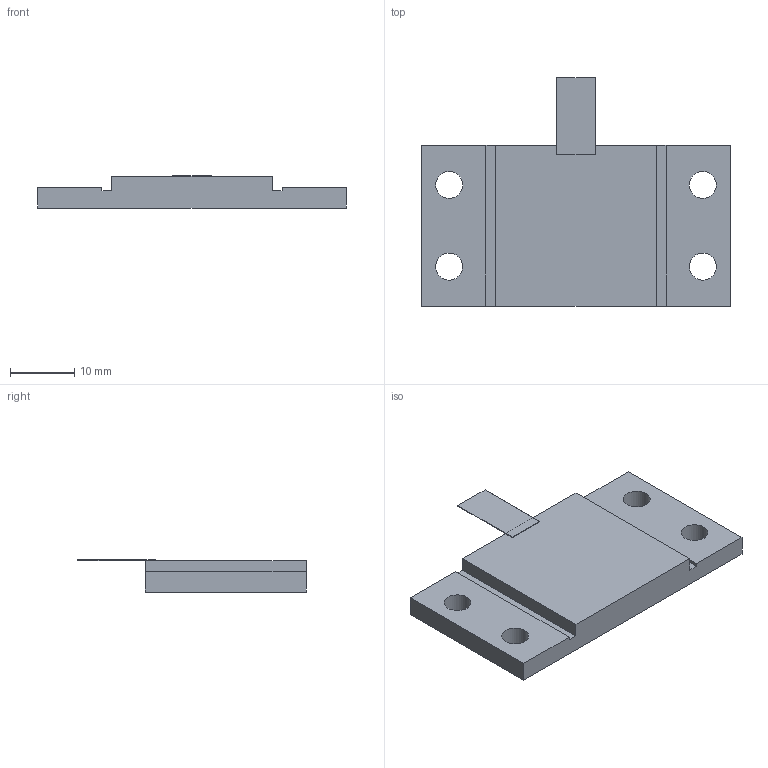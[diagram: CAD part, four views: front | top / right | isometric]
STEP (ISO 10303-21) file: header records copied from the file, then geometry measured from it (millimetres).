
FILE_DESCRIPTION(('STEP AP203'), '1');
FILE_NAME('Ð1-87-800-1', '', ('UNSPECIFIED'), ('UNSPECIFIED'), 'ASCON STEP Converter 1.6', 'ASCON Math Kernel', '');
FILE_SCHEMA(('CONFIG_CONTROL_DESIGN'));
Length unit declared in the file: millimetre
Bounding box: 48 x 35.5 x 5 mm (x, y, z)
Volume: 4694.9 mm3; surface area: 3517.2 mm2
Topology: 1 solids, 2 shells, 43 faces, 115 edges, 76 vertices
Faces by surface type: plane 35, cylinder 8
Full cylindrical faces by diameter (mm): 4.2 x4
Entity records: 1715 total; most frequent: CARTESIAN_POINT 231, ORIENTED_EDGE 222, DIRECTION 215, EDGE_CURVE 111, LINE 95, VECTOR 95, VERTEX_POINT 76, AXIS2_PLACEMENT_3D 60
